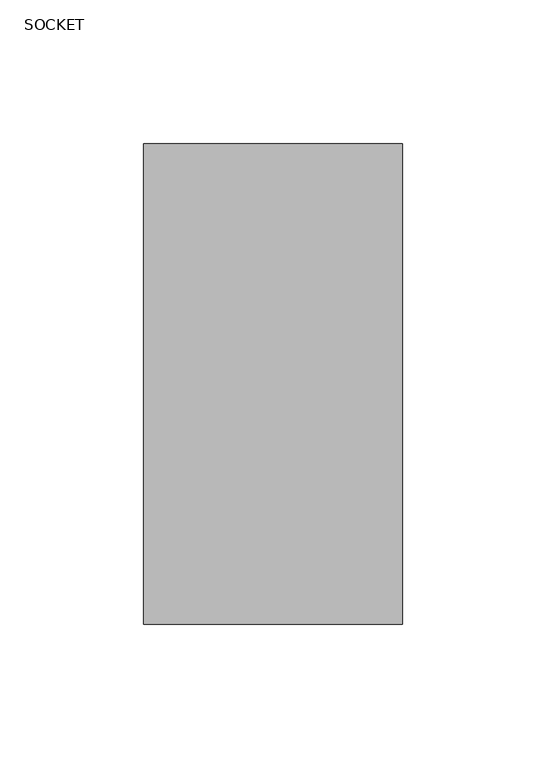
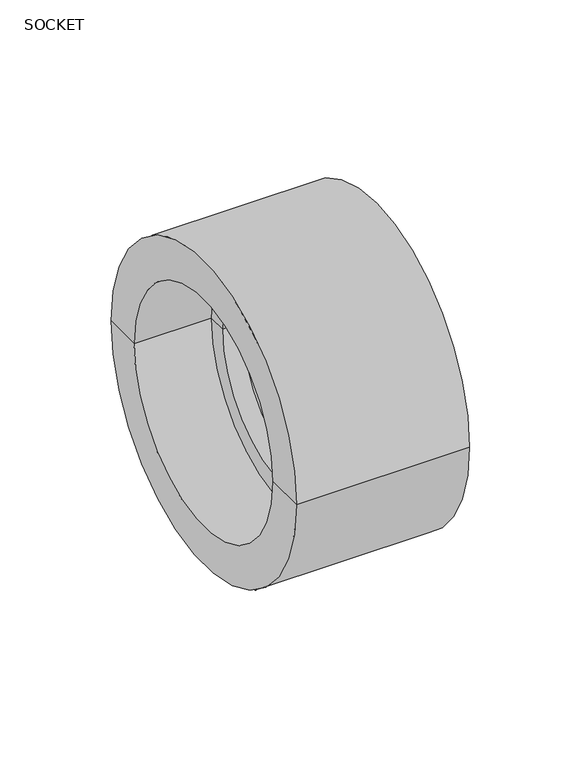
"""IFC4 building model written with IfcOpenShell, lengths in millimetres: pipe fitting geometry, Aquatherm - Coupling Socket : SOCKET."""

from ifc_helpers import new_model, si_unit, frame, origin, place, context, project, spatial, polyline, circle_curve, source, transform, mapped, element, save
from ifc_brep_helpers import plane_surface, cylinder_surface, revolved_surface, advanced_brep


def socket_a7de8778(model_context):
    return source(origin(), model_context, "Body", "AdvancedBrep", [
        advanced_brep(
        [(-44.958, -62.484, 0.0), (-44.958, 62.484, 0.0), (-44.958, 83.439, 0.0), (-44.958, -83.439, 0.0), (-5.08, -62.484, 0.0), (-5.08, 62.484, 0.0), (-5.08, -52.324, 0.0), (-5.08, 52.324, 0.0), (5.08, -52.324, 0.0), (5.08, 52.324, 0.0), (5.08, -62.484, 0.0), (5.08, 62.484, 0.0), (44.958, -62.484, 0.0), (44.958, 62.484, 0.0), (44.958, -83.439, 0.0), (44.958, 83.439, 0.0)],
        [
            (0, 1, circle_curve(frame((-44.958, 0.0, 0.0), z_axis=(1.0, 0.0, 0.0), x_axis=(0.0, 1.0, 0.0)), 62.484)),
            (1, 2),
            (2, 3, circle_curve(frame((-44.958, 0.0, 0.0), z_axis=(-1.0, 0.0, 0.0), x_axis=(0.0, 1.0, 0.0)), 83.439)),
            (3, 0),
            (1, 0, circle_curve(frame((-44.958, 0.0, 0.0), z_axis=(1.0, 0.0, 0.0), x_axis=(0.0, 1.0, 0.0)), 62.484)),
            (3, 2, circle_curve(frame((-44.958, 0.0, 0.0), z_axis=(-1.0, 0.0, 0.0), x_axis=(0.0, 1.0, 0.0)), 83.439)),
            (4, 5, circle_curve(frame((-5.08, 0.0, 0.0), z_axis=(1.0, 0.0, 0.0), x_axis=(0.0, 1.0, 0.0)), 62.484)),
            (5, 1),
            (0, 4),
            (5, 4, circle_curve(frame((-5.08, 0.0, 0.0), z_axis=(1.0, 0.0, 0.0), x_axis=(0.0, 1.0, 0.0)), 62.484)),
            (6, 7, circle_curve(frame((-5.08, 0.0, 0.0), z_axis=(1.0, 0.0, 0.0), x_axis=(0.0, 1.0, 0.0)), 52.324)),
            (7, 5),
            (4, 6),
            (7, 6, circle_curve(frame((-5.08, 0.0, 0.0), z_axis=(1.0, 0.0, 0.0), x_axis=(0.0, 1.0, 0.0)), 52.324)),
            (8, 9, circle_curve(frame((5.08, 0.0, 0.0), z_axis=(1.0, 0.0, 0.0), x_axis=(0.0, 1.0, 0.0)), 52.324)),
            (9, 7),
            (6, 8),
            (9, 8, circle_curve(frame((5.08, 0.0, 0.0), z_axis=(1.0, 0.0, 0.0), x_axis=(0.0, 1.0, 0.0)), 52.324)),
            (10, 11, circle_curve(frame((5.08, 0.0, 0.0), z_axis=(1.0, 0.0, 0.0), x_axis=(0.0, 1.0, 0.0)), 62.484)),
            (11, 9),
            (8, 10),
            (11, 10, circle_curve(frame((5.08, 0.0, 0.0), z_axis=(1.0, 0.0, 0.0), x_axis=(0.0, 1.0, 0.0)), 62.484)),
            (12, 13, circle_curve(frame((44.958, 0.0, 0.0), z_axis=(1.0, 0.0, 0.0), x_axis=(0.0, 1.0, 0.0)), 62.484)),
            (13, 11),
            (10, 12),
            (13, 12, circle_curve(frame((44.958, 0.0, 0.0), z_axis=(1.0, 0.0, 0.0), x_axis=(0.0, 1.0, 0.0)), 62.484)),
            (14, 15, circle_curve(frame((44.958, 0.0, 0.0), z_axis=(1.0, 0.0, 0.0), x_axis=(0.0, 1.0, 0.0)), 83.439)),
            (15, 13),
            (12, 14),
            (15, 14, circle_curve(frame((44.958, 0.0, 0.0), z_axis=(1.0, 0.0, 0.0), x_axis=(0.0, 1.0, 0.0)), 83.439)),
            (2, 15),
            (14, 3),
        ],
        [
            plane_surface(frame((-44.958, 0.0, 0.0), z_axis=(-1.0, 0.0, 0.0), x_axis=(0.0, 1.0, 0.0))),
            revolved_surface(polyline([(-44.958, 62.484, 0.0), (-5.079999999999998, 62.484, 0.0)]), (-61.2564022, 0.0, 0.0), (-1.0, 0.0, 0.0)),
            plane_surface(frame((-5.08, 0.0, 0.0), z_axis=(-1.0, 0.0, 0.0), x_axis=(0.0, 1.0, 0.0))),
            revolved_surface(polyline([(-5.079999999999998, 52.324, 0.0), (5.079999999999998, 52.324, 0.0)]), (-61.2564022, 0.0, 0.0), (-1.0, 0.0, 0.0)),
            plane_surface(frame((5.08, 0.0, 0.0), z_axis=(1.0, 0.0, 0.0), x_axis=(0.0, 1.0, 0.0))),
            revolved_surface(polyline([(5.079999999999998, 62.484, 0.0), (44.958, 62.484, 0.0)]), (-61.2564022, 0.0, 0.0), (-1.0, 0.0, 0.0)),
            plane_surface(frame((44.958, 0.0, 0.0), z_axis=(1.0, 0.0, 0.0), x_axis=(0.0, 1.0, 0.0))),
            cylinder_surface(frame((-61.2564022, 0.0, 0.0), z_axis=(-1.0, 0.0, 0.0), x_axis=(0.0, 1.0, 0.0)), 83.439),
        ],
        [
            (0, [[1, 2, 3, 4]]),
            (0, [[5, -4, 6, -2]]),
            (1, [[7, 8, -1, 9]]),
            (1, [[10, -9, -5, -8]]),
            (2, [[11, 12, -7, 13]]),
            (2, [[14, -13, -10, -12]]),
            (3, [[15, 16, -11, 17]]),
            (3, [[18, -17, -14, -16]]),
            (4, [[19, 20, -15, 21]]),
            (4, [[22, -21, -18, -20]]),
            (5, [[23, 24, -19, 25]]),
            (5, [[26, -25, -22, -24]]),
            (6, [[27, 28, -23, 29]]),
            (6, [[30, -29, -26, -28]]),
            (7, [[-3, 31, -27, 32]]),
            (7, [[-6, -32, -30, -31]]),
        ],
    ),
    ])


if __name__ == "__main__":
    model = new_model("IFC4")
    model_context = context("Model", 3, world=origin())
    ifc_project = project(units=[si_unit("LENGTHUNIT", "METRE", prefix="MILLI")], contexts=[model_context])
    site = spatial("IfcSite", under=ifc_project)
    building = spatial("IfcBuilding", under=site)
    placement = place(None, origin())
    ifc_socket_shape = socket_a7de8778(model_context)
    element("IfcPipeFitting", 1, ObjectType="Aquatherm - Coupling Socket : SOCKET", at=placement, inside=building, context=model_context, shape_type="MappedRepresentation", body=[
        mapped(ifc_socket_shape, transform((0.0, 0.0, 0.0), x_axis=(1.0, 0.0, 0.0), y_axis=(0.0, 1.0, 0.0), z_axis=(0.0, 0.0, 1.0))),
    ])
    save(model, "model.ifc")
